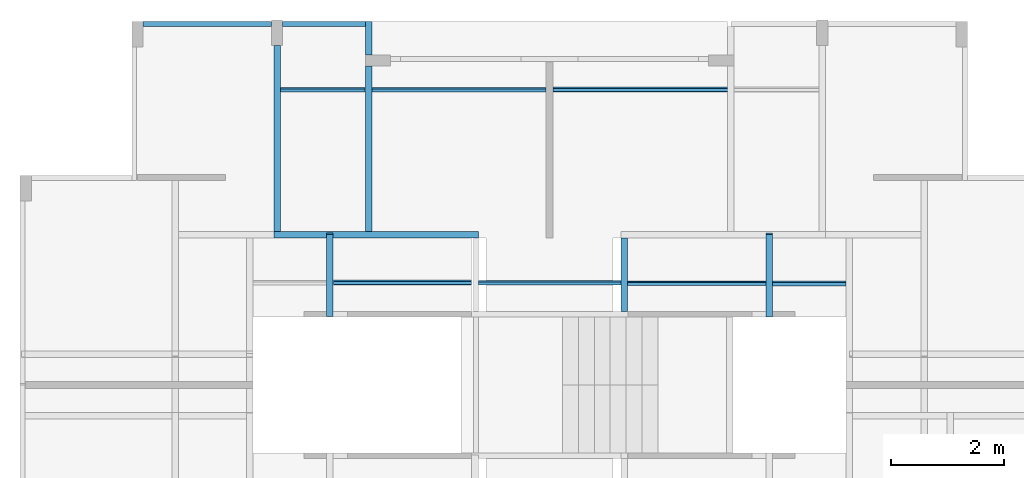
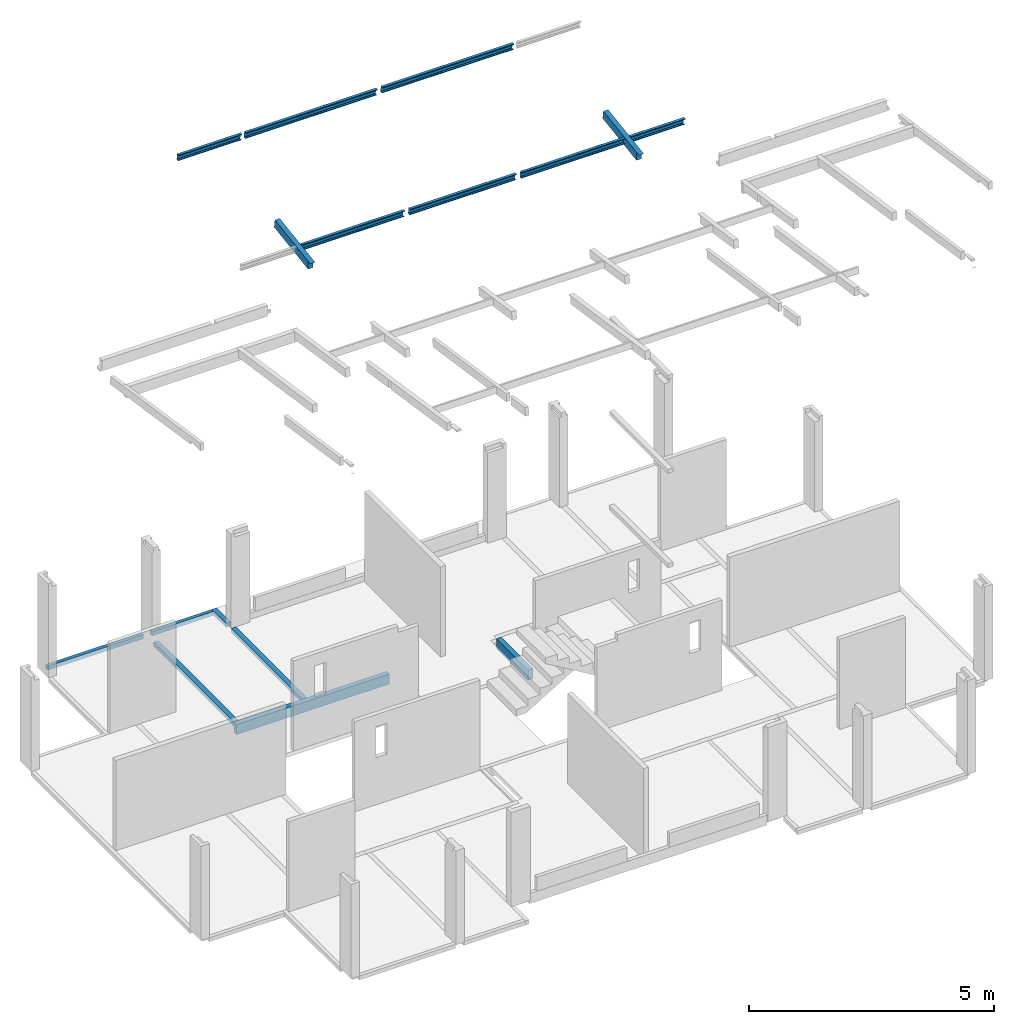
# One storey, part 4 of 9: 14 beams.
"""IFC4 building model written with IfcOpenShell, lengths in metres."""

from ifc_helpers import new_model, entity, si_unit, converted_unit, derived_unit, direction, frame, origin, place, context, subcontext, project, spatial, line, arc, indexed_curve, outline, extrude, source, transform, mapped, material, type_object, type_shapes, element, save


model = new_model("IFC4")

# Units and contexts
model_context = context("Model", 3, precision=1e-05, world=origin(), true_north=direction((6.123031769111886e-17, 1.0)))
body_context = subcontext(model_context, "Body", "Model", "MODEL_VIEW")
ifc_project = project(units=[si_unit("LENGTHUNIT", "METRE"), si_unit("AREAUNIT", "SQUARE_METRE"), si_unit("VOLUMEUNIT", "CUBIC_METRE"), converted_unit("PLANEANGLEUNIT", "DEGREE", entity("IfcRatioMeasure", 0.017453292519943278), si_unit("PLANEANGLEUNIT", "RADIAN"), dimensions=[0, 0, 0, 0, 0, 0, 0]), si_unit("MASSUNIT", "GRAM", prefix="KILO"), derived_unit("MASSDENSITYUNIT", [(si_unit("MASSUNIT", "GRAM", prefix="KILO"), 1), (si_unit("LENGTHUNIT", "METRE"), -3)]), derived_unit("IONCONCENTRATIONUNIT", [(si_unit("MASSUNIT", "GRAM", prefix="KILO"), 1), (si_unit("LENGTHUNIT", "METRE"), -3)]), derived_unit("MOMENTOFINERTIAUNIT", [(si_unit("LENGTHUNIT", "METRE"), 4)]), si_unit("TIMEUNIT", "SECOND"), si_unit("FREQUENCYUNIT", "HERTZ"), si_unit("THERMODYNAMICTEMPERATUREUNIT", "DEGREE_CELSIUS"), derived_unit("THERMALTRANSMITTANCEUNIT", [(si_unit("MASSUNIT", "GRAM", prefix="KILO"), 1), (si_unit("THERMODYNAMICTEMPERATUREUNIT", "KELVIN"), -1), (si_unit("TIMEUNIT", "SECOND"), -3)]), derived_unit("THERMALCONDUCTANCEUNIT", [(si_unit("MASSUNIT", "GRAM", prefix="KILO"), 1), (si_unit("THERMODYNAMICTEMPERATUREUNIT", "KELVIN"), -1), (si_unit("TIMEUNIT", "SECOND"), -3), (si_unit("LENGTHUNIT", "METRE"), 1)]), derived_unit("VOLUMETRICFLOWRATEUNIT", [(si_unit("LENGTHUNIT", "METRE"), 3), (si_unit("TIMEUNIT", "SECOND"), -1)]), derived_unit("MASSFLOWRATEUNIT", [(si_unit("MASSUNIT", "GRAM", prefix="KILO"), 1), (si_unit("TIMEUNIT", "SECOND"), -1)]), derived_unit("ROTATIONALFREQUENCYUNIT", [(si_unit("TIMEUNIT", "SECOND"), -1)]), si_unit("ELECTRICCURRENTUNIT", "AMPERE"), si_unit("ELECTRICVOLTAGEUNIT", "VOLT"), si_unit("POWERUNIT", "WATT"), si_unit("FORCEUNIT", "NEWTON", prefix="KILO"), si_unit("ILLUMINANCEUNIT", "LUX"), si_unit("LUMINOUSFLUXUNIT", "LUMEN"), si_unit("LUMINOUSINTENSITYUNIT", "CANDELA"), derived_unit("USERDEFINED", [(si_unit("MASSUNIT", "GRAM", prefix="KILO"), -1), (si_unit("LENGTHUNIT", "METRE"), -2), (si_unit("TIMEUNIT", "SECOND"), 3), (si_unit("LUMINOUSFLUXUNIT", "LUMEN"), 1)]), derived_unit("USERDEFINED", [(si_unit("MASSUNIT", "GRAM", prefix="KILO"), 1), (si_unit("TIMEUNIT", "SECOND"), -3), (si_unit("LENGTHUNIT", "METRE"), 3), (si_unit("ELECTRICCURRENTUNIT", "AMPERE"), -2)]), derived_unit("SOUNDPOWERUNIT", [(si_unit("MASSUNIT", "GRAM", prefix="KILO"), 1), (si_unit("TIMEUNIT", "SECOND"), -3), (si_unit("LENGTHUNIT", "METRE"), 2)]), derived_unit("SOUNDPRESSUREUNIT", [(si_unit("MASSUNIT", "GRAM", prefix="KILO"), 1), (si_unit("LENGTHUNIT", "METRE"), -1), (si_unit("TIMEUNIT", "SECOND"), -2)]), derived_unit("LINEARVELOCITYUNIT", [(si_unit("LENGTHUNIT", "METRE"), 1), (si_unit("TIMEUNIT", "SECOND"), -1)]), si_unit("PRESSUREUNIT", "PASCAL"), derived_unit("USERDEFINED", [(si_unit("MASSUNIT", "GRAM", prefix="KILO"), 1), (si_unit("LENGTHUNIT", "METRE"), -2), (si_unit("TIMEUNIT", "SECOND"), -2)]), derived_unit("LINEARFORCEUNIT", [(si_unit("MASSUNIT", "GRAM", prefix="KILO"), 1), (si_unit("TIMEUNIT", "SECOND"), -2)]), derived_unit("PLANARFORCEUNIT", [(si_unit("MASSUNIT", "GRAM", prefix="KILO"), 1), (si_unit("LENGTHUNIT", "METRE"), -1), (si_unit("TIMEUNIT", "SECOND"), -2)]), derived_unit("SPECIFICHEATCAPACITYUNIT", [(si_unit("THERMODYNAMICTEMPERATUREUNIT", "KELVIN"), -1), (si_unit("LENGTHUNIT", "METRE"), 2), (si_unit("TIMEUNIT", "SECOND"), -2)]), derived_unit("HEATINGVALUEUNIT", [(si_unit("LENGTHUNIT", "METRE"), 2), (si_unit("TIMEUNIT", "SECOND"), -2)]), derived_unit("VAPORPERMEABILITYUNIT", [(si_unit("LENGTHUNIT", "METRE"), -1), (si_unit("TIMEUNIT", "SECOND"), 1)]), derived_unit("DYNAMICVISCOSITYUNIT", [(si_unit("MASSUNIT", "GRAM", prefix="KILO"), 1), (si_unit("TIMEUNIT", "SECOND"), -1), (si_unit("LENGTHUNIT", "METRE"), -1)]), derived_unit("THERMALEXPANSIONCOEFFICIENTUNIT", [(si_unit("THERMODYNAMICTEMPERATUREUNIT", "KELVIN"), -1)]), derived_unit("MODULUSOFELASTICITYUNIT", [(si_unit("MASSUNIT", "GRAM", prefix="KILO"), 1), (si_unit("LENGTHUNIT", "METRE"), -1), (si_unit("TIMEUNIT", "SECOND"), -2)]), derived_unit("ISOTHERMALMOISTURECAPACITYUNIT", [(si_unit("LENGTHUNIT", "METRE"), 3), (si_unit("MASSUNIT", "GRAM", prefix="KILO"), -1)]), derived_unit("MOISTUREDIFFUSIVITYUNIT", [(si_unit("TIMEUNIT", "SECOND"), -1), (si_unit("LENGTHUNIT", "METRE"), 2)])], contexts=[model_context])

# Site, building, storey
site_placement = place(None, origin())
site = spatial("IfcSite", under=ifc_project, at=site_placement, Name="Default", CompositionType="ELEMENT")
building_placement = place(site_placement, origin())
building = spatial("IfcBuilding", under=site, at=building_placement, Name="Las nubes", CompositionType="ELEMENT")
storey_placement = place(building_placement, frame((0.0, 0.0, 2.3500000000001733)))
storey = spatial("IfcBuildingStorey", under=building, at=storey_placement, Name="PISO 2", CompositionType="ELEMENT", Elevation=2.3500000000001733)

# Beams
ifc_material_1 = material(Name="Concrete, Cast In Situ", Category="Materials")
beam_type_1 = type_object("IfcBeamType", Name="M_Concrete-Rectangular Beam:(0.115x0.25)", PredefinedType="BEAM", material=ifc_material_1)
shared_shape_1 = source(origin(), body_context, "Body", "SweptSolid", [
    extrude(outline(indexed_curve([(-0.12500000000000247, -0.05749999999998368), (0.12499999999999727, -0.0575000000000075), (0.12500000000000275, 0.05749999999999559), (-0.124999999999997, 0.0575000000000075), (-0.12500000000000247, -0.05749999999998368)], self_intersect=False)), frame((8.062500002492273, -3.7674999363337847, 2.2250000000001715), z_axis=(-1.0, 0.0, 0.0), x_axis=(0.0, 0.0, -1.0)), (0.0, 0.0, 1.0), 3.610000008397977),
])
type_shapes(beam_type_1, [shared_shape_1])
beam_1_placement = place(storey_placement, frame((0.0, 0.0, -2.3500000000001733)))
element("IfcBeam", 1, at=beam_1_placement, inside=storey, type_object=beam_type_1, material=ifc_material_1, Name="M_Concrete-Rectangular Beam:(0.115x0.25)", ObjectType="M_Concrete-Rectangular Beam:(0.115x0.25)", PredefinedType="BEAM", context=body_context, shape_type="MappedRepresentation", body=[
    mapped(shared_shape_1, transform((0.0, 0.0, 0.0), scale=1.0)),
])
beam_type_2 = type_object("IfcBeamType", Name="M_Concrete-Rectangular Beam:(0.115x0.25)", PredefinedType="BEAM", material=ifc_material_1)
shared_shape_2 = source(origin(), body_context, "Body", "SweptSolid", [
    extrude(outline(indexed_curve([(-0.05750000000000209, -0.125), (0.05750000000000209, -0.125), (0.05750000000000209, 0.12499999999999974), (-0.05750000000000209, 0.12499999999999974), (-0.05750000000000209, -0.125)], self_intersect=False)), frame((10.639999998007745, -5.125000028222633, 2.2250000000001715), z_axis=(0.0, 1.0, 0.0), x_axis=(-1.0, 0.0, 0.0)), (0.0, 0.0, 1.0), 1.3000000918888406),
])
type_shapes(beam_type_2, [shared_shape_2])
beam_2_placement = place(storey_placement, frame((0.0, 0.0, -2.3500000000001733)))
element("IfcBeam", 2, at=beam_2_placement, inside=storey, type_object=beam_type_2, material=ifc_material_1, Name="M_Concrete-Rectangular Beam:(0.115x0.25)", ObjectType="M_Concrete-Rectangular Beam:(0.115x0.25)", PredefinedType="BEAM", context=body_context, shape_type="MappedRepresentation", body=[
    mapped(shared_shape_2, transform((0.0, 0.0, 0.0), scale=1.0)),
])
beam_type_3 = type_object("IfcBeamType", Name="M_Concrete-Rectangular Beam:(0.115x0.10)", PredefinedType="BEAM", material=ifc_material_1)
shared_shape_3 = source(origin(), body_context, "Body", "SweptSolid", [
    extrude(outline(indexed_curve([(-0.05750000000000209, -0.05), (0.05750000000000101, -0.05), (0.05750000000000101, 0.05), (-0.05750000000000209, 0.05), (-0.05750000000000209, -0.05)], self_intersect=False)), frame((4.5099999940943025, -0.4300000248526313, 2.3000000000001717), z_axis=(0.0, -1.0, 0.0), x_axis=(-1.0, 0.0, 0.0)), (0.0, 0.0, 1.0), 3.2799999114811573),
])
type_shapes(beam_type_3, [shared_shape_3])
beam_3_placement = place(storey_placement, frame((0.0, 0.0, -2.3500000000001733)))
element("IfcBeam", 3, at=beam_3_placement, inside=storey, type_object=beam_type_3, material=ifc_material_1, Name="M_Concrete-Rectangular Beam:(0.115x0.10)", ObjectType="M_Concrete-Rectangular Beam:(0.115x0.10)", PredefinedType="BEAM", context=body_context, shape_type="MappedRepresentation", body=[
    mapped(shared_shape_3, transform((0.0, 0.0, 0.0), scale=1.0)),
])
beam_type_4 = type_object("IfcBeamType", Name="M_Concrete-Rectangular Beam:(0.085x0.10)", PredefinedType="BEAM", material=ifc_material_1)
shared_shape_4 = source(origin(), body_context, "Body", "SweptSolid", [
    extrude(outline(indexed_curve([(-0.050000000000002, -0.04249999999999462), (0.049999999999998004, -0.04250000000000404), (0.050000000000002, 0.04249999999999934), (-0.049999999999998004, 0.04250000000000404), (-0.050000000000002, -0.04249999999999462)], self_intersect=False)), frame((4.609999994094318, -0.05247950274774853, 2.3000000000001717), z_axis=(1.0, 0.0, 0.0), x_axis=(0.0, 0.0, -1.0)), (0.0, 0.0, 1.0), 1.4574999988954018),
    extrude(outline(indexed_curve([(-0.05000000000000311, -0.04249999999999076), (0.0499999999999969, -0.042500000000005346), (0.05000000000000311, 0.04249999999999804), (-0.0499999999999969, 0.042500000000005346), (-0.05000000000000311, -0.04249999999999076)], self_intersect=False)), frame((2.14749999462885, -0.05247950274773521, 2.3000000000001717), z_axis=(1.0, 0.0, 0.0), x_axis=(0.0, 0.0, -1.0)), (0.0, 0.0, 1.0), 2.2624999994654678),
])
type_shapes(beam_type_4, [shared_shape_4])
beam_4_placement = place(storey_placement, frame((0.0, 0.0, -2.3500000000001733)))
element("IfcBeam", 4, at=beam_4_placement, inside=storey, type_object=beam_type_4, material=ifc_material_1, Name="M_Concrete-Rectangular Beam:(0.085x0.10)", ObjectType="M_Concrete-Rectangular Beam:(0.085x0.10)", PredefinedType="BEAM", context=body_context, shape_type="MappedRepresentation", body=[
    mapped(shared_shape_4, transform((0.0, 0.0, 0.0), scale=1.0)),
])
beam_type_5 = type_object("IfcBeamType", Name="M_Concrete-Rectangular Beam:(0.115x0.10)", PredefinedType="BEAM", material=ifc_material_1)
shared_shape_5 = source(origin(), body_context, "Body", "SweptSolid", [
    extrude(outline(indexed_curve([(-0.05750000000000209, -0.05), (0.05750000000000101, -0.05), (0.05750000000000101, 0.05), (-0.05750000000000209, 0.05), (-0.05750000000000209, -0.05)], self_intersect=False)), frame((6.12499999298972, -0.7950000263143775, 2.3000000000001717), z_axis=(0.0, -1.0, 0.0), x_axis=(-1.0, 0.0, 0.0)), (0.0, 0.0, 1.0), 2.9149999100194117),
    extrude(outline(indexed_curve([(-0.05750000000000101, -0.05), (0.05750000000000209, -0.05), (0.05750000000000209, 0.05), (-0.05750000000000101, 0.05), (-0.05750000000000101, -0.05)], self_intersect=False)), frame((6.124999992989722, -0.009979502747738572, 2.3000000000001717), z_axis=(0.0, -1.0, 0.0), x_axis=(-1.0, 0.0, 0.0)), (0.0, 0.0, 1.0), 0.5850205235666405),
])
type_shapes(beam_type_5, [shared_shape_5])
beam_5_placement = place(storey_placement, frame((0.0, 0.0, -2.3500000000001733)))
element("IfcBeam", 5, at=beam_5_placement, inside=storey, type_object=beam_type_5, material=ifc_material_1, Name="M_Concrete-Rectangular Beam:(0.115x0.10)", ObjectType="M_Concrete-Rectangular Beam:(0.115x0.10)", PredefinedType="BEAM", context=body_context, shape_type="MappedRepresentation", body=[
    mapped(shared_shape_5, transform((0.0, 0.0, 0.0), scale=1.0)),
])
beam_type_6 = type_object("IfcBeamType", Name="M_Concrete-Rectangular Beam:(0.115x0.20)", PredefinedType="BEAM", material=ifc_material_1)
shared_shape_6 = source(origin(), body_context, "Body", "SweptSolid", [
    extrude(outline(indexed_curve([(-0.9527140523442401, -0.06925767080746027), (0.5165752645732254, -0.06925767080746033), (0.5166783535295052, -0.06857041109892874), (0.4222016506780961, -0.054398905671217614), (0.4499728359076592, 0.1307423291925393), (-0.9527140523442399, 0.13074232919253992), (-0.9527140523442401, -0.06925767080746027)], self_intersect=False)), frame((13.142500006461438, -4.699399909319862, 14.374932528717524), z_axis=(1.0, 0.0, 0.0), x_axis=(0.0, -0.988936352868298, -0.14834045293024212)), (0.0, 0.0, 1.0), 0.11500000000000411),
])
type_shapes(beam_type_6, [shared_shape_6])
beam_6_placement = place(storey_placement, frame((0.0, 0.0, -2.3500000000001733)))
element("IfcBeam", 6, at=beam_6_placement, inside=storey, type_object=beam_type_6, material=ifc_material_1, Name="M_Concrete-Rectangular Beam:(0.115x0.20)", ObjectType="M_Concrete-Rectangular Beam:(0.115x0.20)", PredefinedType="BEAM", context=body_context, shape_type="MappedRepresentation", body=[
    mapped(shared_shape_6, transform((0.0, 0.0, 0.0), scale=1.0)),
])
beam_type_7 = type_object("IfcBeamType", Name="M_Concrete-Rectangular Beam:(0.115x0.20)", PredefinedType="BEAM", material=ifc_material_1)
shared_shape_7 = source(origin(), body_context, "Body", "SweptSolid", [
    extrude(outline(indexed_curve([(-0.9520587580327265, -0.0693062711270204), (0.5152428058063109, -0.06930627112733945), (0.5153896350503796, -0.0683274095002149), (0.4228569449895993, -0.054447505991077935), (0.4506281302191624, 0.13069372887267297), (-0.9520587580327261, 0.1306937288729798), (-0.9520587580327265, -0.0693062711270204)], self_intersect=False)), frame((5.387499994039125, -4.698744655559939, 14.374981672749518), z_axis=(1.0, 0.0, 0.0), x_axis=(0.0, -0.988936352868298, -0.14834045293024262)), (0.0, 0.0, 1.0), 0.115000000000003),
])
type_shapes(beam_type_7, [shared_shape_7])
beam_7_placement = place(storey_placement, frame((0.0, 0.0, -2.3500000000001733)))
element("IfcBeam", 7, at=beam_7_placement, inside=storey, type_object=beam_type_7, material=ifc_material_1, Name="M_Concrete-Rectangular Beam:(0.115x0.20)", ObjectType="M_Concrete-Rectangular Beam:(0.115x0.20)", PredefinedType="BEAM", context=body_context, shape_type="MappedRepresentation", body=[
    mapped(shared_shape_7, transform((0.0, 0.0, 0.0), scale=1.0)),
])
ifc_material_2 = material(Name="Steel - 300+", Category="Materials")
beam_type_8 = type_object("IfcBeamType", Name="AUS-C Purlin:CR-1", PredefinedType="BEAM", material=ifc_material_2)
shared_shape_8 = source(origin(), body_context, "Body", "SweptSolid", [
    extrude(outline(indexed_curve([(-0.07614999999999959, -0.023850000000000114), (-0.05965000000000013, -0.023850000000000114), (-0.05965000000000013, -0.02185000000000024), (-0.07615000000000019, -0.02185000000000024), (-0.07721066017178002, -0.021410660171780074), (-0.0776500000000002, -0.020350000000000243), (-0.07765000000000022, 0.03265000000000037), (-0.07721066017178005, 0.033710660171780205), (-0.0761500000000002, 0.03415000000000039), (0.07334999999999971, 0.03415000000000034), (0.07688553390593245, 0.03268553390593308), (0.07834999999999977, 0.029150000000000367), (0.07834999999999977, -0.02035000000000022), (0.07791066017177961, -0.021410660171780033), (0.07684999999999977, -0.02185000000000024), (0.06034999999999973, -0.02185000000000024), (0.06034999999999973, -0.023850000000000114), (0.07685000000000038, -0.023850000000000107), (0.0793248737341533, -0.022824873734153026), (0.0803500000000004, -0.020350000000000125), (0.0803500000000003, 0.029149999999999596), (0.078299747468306, 0.034099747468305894), (0.0733499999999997, 0.03615000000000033), (-0.07614999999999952, 0.036150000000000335), (-0.07862487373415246, 0.03512487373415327), (-0.07964999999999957, 0.032650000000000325), (-0.07964999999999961, -0.020350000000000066), (-0.07862487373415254, -0.02282487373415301)], segments=[line(1, 2, 3, 4), arc(4, 5, 6), line(6, 7), arc(7, 8, 9), line(9, 10), arc(10, 11, 12), line(12, 13), arc(13, 14, 15), line(15, 16, 17, 18), arc(18, 19, 20), line(20, 21), arc(21, 22, 23), line(23, 24), arc(24, 25, 26), line(26, 27), arc(27, 28, 1)], self_intersect=False)), frame((-1.2217510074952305, -0.03415000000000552, 0.00034999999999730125), z_axis=(1.0, 0.0, 0.0), x_axis=(0.0, 0.0, -1.0)), (0.0, 0.0, 1.0), 2.443164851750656),
])
type_shapes(beam_type_8, [shared_shape_8])
beam_8_placement = place(storey_placement, frame((6.724999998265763, -4.5854425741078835, 12.031163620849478), z_axis=(0.0, -0.14834045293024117, 0.9889363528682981), x_axis=(1.0, 0.0, 0.0)))
element("IfcBeam", 8, at=beam_8_placement, inside=storey, type_object=beam_type_8, material=ifc_material_2, Name="AUS-C Purlin:CR-1", ObjectType="AUS-C Purlin:CR-1", PredefinedType="BEAM", context=body_context, shape_type="MappedRepresentation", body=[
    mapped(shared_shape_8, transform((0.0, 0.0, 0.0), scale=1.0)),
])
beam_type_9 = type_object("IfcBeamType", Name="AUS-C Purlin:CR-1", PredefinedType="BEAM", material=ifc_material_2)
shared_shape_9 = source(origin(), body_context, "Body", "SweptSolid", [
    extrude(outline(indexed_curve([(-0.07614999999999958, -0.023850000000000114), (-0.05965000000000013, -0.023850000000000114), (-0.05965000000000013, -0.02185000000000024), (-0.07615000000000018, -0.02185000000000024), (-0.07721066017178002, -0.021410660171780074), (-0.0776500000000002, -0.020350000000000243), (-0.07765000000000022, 0.03265000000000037), (-0.07721066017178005, 0.033710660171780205), (-0.07615000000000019, 0.03415000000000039), (0.07334999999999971, 0.03415000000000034), (0.07688553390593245, 0.03268553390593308), (0.07834999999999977, 0.029150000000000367), (0.07834999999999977, -0.02035000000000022), (0.07791066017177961, -0.021410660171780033), (0.07684999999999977, -0.02185000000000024), (0.06034999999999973, -0.02185000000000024), (0.06034999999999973, -0.023850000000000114), (0.07685000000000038, -0.023850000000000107), (0.0793248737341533, -0.022824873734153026), (0.0803500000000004, -0.020350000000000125), (0.0803500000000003, 0.029149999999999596), (0.078299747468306, 0.034099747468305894), (0.0733499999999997, 0.03615000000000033), (-0.07614999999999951, 0.036150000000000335), (-0.07862487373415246, 0.03512487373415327), (-0.07964999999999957, 0.032650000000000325), (-0.07964999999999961, -0.020350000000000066), (-0.07862487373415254, -0.02282487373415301)], segments=[line(1, 2, 3, 4), arc(4, 5, 6), line(6, 7), arc(7, 8, 9), line(9, 10), arc(10, 11, 12), line(12, 13), arc(13, 14, 15), line(15, 16, 17, 18), arc(18, 19, 20), line(20, 21), arc(21, 22, 23), line(23, 24), arc(24, 25, 26), line(26, 27), arc(27, 28, 1)], self_intersect=False)), frame((-1.2567237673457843, -0.03415000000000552, 0.0003499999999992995), z_axis=(1.0, 0.0, 0.0), x_axis=(0.0, 0.0, -1.0)), (0.0, 0.0, 1.0), 2.5146642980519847),
])
type_shapes(beam_type_9, [shared_shape_9])
beam_9_placement = place(storey_placement, frame((9.322500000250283, -4.5920440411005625, 12.030173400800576), z_axis=(0.0, -0.14834045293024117, 0.9889363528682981), x_axis=(1.0, 0.0, 0.0)))
element("IfcBeam", 9, at=beam_9_placement, inside=storey, type_object=beam_type_9, material=ifc_material_2, Name="AUS-C Purlin:CR-1", ObjectType="AUS-C Purlin:CR-1", PredefinedType="BEAM", context=body_context, shape_type="MappedRepresentation", body=[
    mapped(shared_shape_9, transform((0.0, 0.0, 0.0), scale=1.0)),
])
beam_type_10 = type_object("IfcBeamType", Name="AUS-C Purlin:CR-1", PredefinedType="BEAM", material=ifc_material_2)
shared_shape_10 = source(origin(), body_context, "Body", "SweptSolid", [
    extrude(outline(indexed_curve([(-0.07614999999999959, -0.023850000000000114), (-0.05965000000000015, -0.023850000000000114), (-0.05965000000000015, -0.02185000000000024), (-0.07615000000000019, -0.02185000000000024), (-0.07721066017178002, -0.021410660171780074), (-0.0776500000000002, -0.020350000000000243), (-0.07765000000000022, 0.03265000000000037), (-0.07721066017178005, 0.033710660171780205), (-0.0761500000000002, 0.03415000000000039), (0.0733499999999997, 0.03415000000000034), (0.07688553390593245, 0.03268553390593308), (0.07834999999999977, 0.029150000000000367), (0.07834999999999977, -0.02035000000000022), (0.07791066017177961, -0.021410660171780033), (0.07684999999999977, -0.02185000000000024), (0.06034999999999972, -0.02185000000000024), (0.06034999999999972, -0.023850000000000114), (0.07685000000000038, -0.023850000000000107), (0.0793248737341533, -0.022824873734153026), (0.0803500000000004, -0.020350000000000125), (0.0803500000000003, 0.029149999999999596), (0.078299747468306, 0.034099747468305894), (0.07334999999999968, 0.03615000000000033), (-0.07614999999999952, 0.036150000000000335), (-0.07862487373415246, 0.03512487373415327), (-0.07964999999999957, 0.032650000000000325), (-0.07964999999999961, -0.020350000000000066), (-0.07862487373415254, -0.02282487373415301)], segments=[line(1, 2, 3, 4), arc(4, 5, 6), line(6, 7), arc(7, 8, 9), line(9, 10), arc(10, 11, 12), line(12, 13), arc(13, 14, 15), line(15, 16, 17, 18), arc(18, 19, 20), line(20, 21), arc(21, 22, 23), line(23, 24), arc(24, 25, 26), line(26, 27), arc(27, 28, 1)], self_intersect=False)), frame((-1.2217510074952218, -0.03415000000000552, 0.00034999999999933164), z_axis=(1.0, 0.0, 0.0), x_axis=(0.0, 0.0, -1.0)), (0.0, 0.0, 1.0), 2.443247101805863),
])
type_shapes(beam_type_10, [shared_shape_10])
beam_10_placement = place(storey_placement, frame((11.920000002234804, -4.598500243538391, 12.029204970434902), z_axis=(0.0, -0.14834045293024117, 0.9889363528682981), x_axis=(1.0, 0.0, 0.0)))
element("IfcBeam", 10, at=beam_10_placement, inside=storey, type_object=beam_type_10, material=ifc_material_2, Name="AUS-C Purlin:CR-1", ObjectType="AUS-C Purlin:CR-1", PredefinedType="BEAM", context=body_context, shape_type="MappedRepresentation", body=[
    mapped(shared_shape_10, transform((0.0, 0.0, 0.0), scale=1.0)),
])
beam_type_11 = type_object("IfcBeamType", Name="AUS-C Purlin:CR-1", PredefinedType="BEAM", material=ifc_material_2)
shared_shape_11 = source(origin(), body_context, "Body", "SweptSolid", [
    extrude(outline(indexed_curve([(-0.07614999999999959, -0.023850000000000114), (-0.05965000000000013, -0.023850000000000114), (-0.05965000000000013, -0.02185000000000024), (-0.07615000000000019, -0.02185000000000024), (-0.07721066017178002, -0.021410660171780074), (-0.0776500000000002, -0.020350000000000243), (-0.07765000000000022, 0.03265000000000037), (-0.07721066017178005, 0.033710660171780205), (-0.0761500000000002, 0.03415000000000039), (0.07334999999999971, 0.03415000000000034), (0.07688553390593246, 0.03268553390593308), (0.07834999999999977, 0.029150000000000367), (0.07834999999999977, -0.02035000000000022), (0.07791066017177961, -0.021410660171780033), (0.07684999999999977, -0.02185000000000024), (0.060349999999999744, -0.02185000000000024), (0.060349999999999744, -0.023850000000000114), (0.07685000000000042, -0.023850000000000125), (0.07932487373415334, -0.022824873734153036), (0.0803500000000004, -0.020350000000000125), (0.08035000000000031, 0.029149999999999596), (0.07829974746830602, 0.034099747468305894), (0.0733499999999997, 0.03615000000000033), (-0.07614999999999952, 0.036150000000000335), (-0.07862487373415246, 0.03512487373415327), (-0.07964999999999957, 0.032650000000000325), (-0.07964999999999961, -0.020350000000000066), (-0.07862487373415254, -0.02282487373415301)], segments=[line(1, 2, 3, 4), arc(4, 5, 6), line(6, 7), arc(7, 8, 9), line(9, 10), arc(10, 11, 12), line(12, 13), arc(13, 14, 15), line(15, 16, 17, 18), arc(18, 19, 20), line(20, 21), arc(21, 22, 23), line(23, 24), arc(24, 25, 26), line(26, 27), arc(27, 28, 1)], self_intersect=False)), frame((-0.649251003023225, -0.03415000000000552, 0.0003499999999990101), z_axis=(1.0, 0.0, 0.0), x_axis=(0.0, 0.0, -1.0)), (0.0, 0.0, 1.0), 1.2972923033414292),
])
type_shapes(beam_type_11, [shared_shape_11])
beam_11_placement = place(storey_placement, frame((13.907500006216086, -4.604814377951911, 12.028257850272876), z_axis=(0.0, -0.14834045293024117, 0.9889363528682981), x_axis=(1.0, 0.0, 0.0)))
element("IfcBeam", 11, at=beam_11_placement, inside=storey, type_object=beam_type_11, material=ifc_material_2, Name="AUS-C Purlin:CR-1", ObjectType="AUS-C Purlin:CR-1", PredefinedType="BEAM", context=body_context, shape_type="MappedRepresentation", body=[
    mapped(shared_shape_11, transform((0.0, 0.0, 0.0), scale=1.0)),
])
beam_type_12 = type_object("IfcBeamType", Name="AUS-C Purlin:CR-1", PredefinedType="BEAM", material=ifc_material_2)
shared_shape_12 = source(origin(), body_context, "Body", "SweptSolid", [
    extrude(outline(indexed_curve([(-0.07614999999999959, -0.023850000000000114), (-0.05965000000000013, -0.023850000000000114), (-0.05965000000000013, -0.02185000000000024), (-0.07615000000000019, -0.02185000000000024), (-0.07721066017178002, -0.021410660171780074), (-0.0776500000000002, -0.020350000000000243), (-0.07765000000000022, 0.03265000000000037), (-0.07721066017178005, 0.033710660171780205), (-0.0761500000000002, 0.03415000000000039), (0.07334999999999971, 0.03415000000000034), (0.07688553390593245, 0.03268553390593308), (0.07834999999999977, 0.029150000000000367), (0.07834999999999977, -0.02035000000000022), (0.07791066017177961, -0.021410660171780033), (0.07684999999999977, -0.02185000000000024), (0.06034999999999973, -0.02185000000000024), (0.06034999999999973, -0.023850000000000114), (0.07685000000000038, -0.023850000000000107), (0.0793248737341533, -0.022824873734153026), (0.0803500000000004, -0.020350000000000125), (0.0803500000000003, 0.029149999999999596), (0.078299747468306, 0.034099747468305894), (0.0733499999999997, 0.03615000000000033), (-0.07614999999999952, 0.036150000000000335), (-0.07862487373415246, 0.03512487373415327), (-0.07964999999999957, 0.032650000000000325), (-0.07964999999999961, -0.020350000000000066), (-0.07862487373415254, -0.02282487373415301)], segments=[line(1, 2, 3, 4), arc(4, 5, 6), line(6, 7), arc(7, 8, 9), line(9, 10), arc(10, 11, 12), line(12, 13), arc(13, 14, 15), line(15, 16, 17, 18), arc(18, 19, 20), line(20, 21), arc(21, 22, 23), line(23, 24), arc(24, 25, 26), line(26, 27), arc(27, 28, 1)], self_intersect=False)), frame((-0.7423326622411, -0.03415000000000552, 0.0003499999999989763), z_axis=(1.0, 0.0, 0.0), x_axis=(0.0, 0.0, -1.0)), (0.0, 0.0, 1.0), 1.4979288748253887),
])
type_shapes(beam_type_12, [shared_shape_12])
beam_12_placement = place(storey_placement, frame((5.309999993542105, -1.1854425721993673, 12.541163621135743), z_axis=(0.0, -0.14834045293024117, 0.9889363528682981), x_axis=(1.0, 0.0, 0.0)))
element("IfcBeam", 12, at=beam_12_placement, inside=storey, type_object=beam_type_12, material=ifc_material_2, Name="AUS-C Purlin:CR-1", ObjectType="AUS-C Purlin:CR-1", PredefinedType="BEAM", context=body_context, shape_type="MappedRepresentation", body=[
    mapped(shared_shape_12, transform((0.0, 0.0, 0.0), scale=1.0)),
])
beam_type_13 = type_object("IfcBeamType", Name="AUS-C Purlin:CR-1", PredefinedType="BEAM", material=ifc_material_2)
shared_shape_13 = source(origin(), body_context, "Body", "SweptSolid", [
    extrude(outline(indexed_curve([(-0.0761499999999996, -0.023850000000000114), (-0.05965000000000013, -0.023850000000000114), (-0.05965000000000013, -0.02185000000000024), (-0.07615000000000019, -0.02185000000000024), (-0.07721066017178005, -0.021410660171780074), (-0.07765000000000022, -0.020350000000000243), (-0.07765000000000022, 0.03265000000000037), (-0.07721066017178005, 0.033710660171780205), (-0.0761500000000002, 0.03415000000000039), (0.07334999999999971, 0.03415000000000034), (0.07688553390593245, 0.03268553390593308), (0.07834999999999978, 0.029150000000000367), (0.07834999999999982, -0.02035000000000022), (0.07791066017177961, -0.02141066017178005), (0.0768499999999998, -0.02185000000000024), (0.06034999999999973, -0.02185000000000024), (0.06034999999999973, -0.023850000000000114), (0.0768500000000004, -0.023850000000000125), (0.07932487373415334, -0.022824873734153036), (0.08035000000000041, -0.020350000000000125), (0.08035000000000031, 0.029149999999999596), (0.078299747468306, 0.034099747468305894), (0.0733499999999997, 0.03615000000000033), (-0.07614999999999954, 0.036150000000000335), (-0.07862487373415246, 0.03512487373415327), (-0.0796499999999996, 0.032650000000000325), (-0.0796499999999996, -0.020350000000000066), (-0.07862487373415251, -0.022824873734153)], segments=[line(1, 2, 3, 4), arc(4, 5, 6), line(6, 7), arc(7, 8, 9), line(9, 10), arc(10, 11, 12), line(12, 13), arc(13, 14, 15), line(15, 16, 17, 18), arc(18, 19, 20), line(20, 21), arc(21, 22, 23), line(23, 24), arc(24, 25, 26), line(26, 27), arc(27, 28, 1)], self_intersect=False)), frame((-1.5460826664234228, -0.03415000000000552, 0.00034999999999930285), z_axis=(1.0, 0.0, 0.0), x_axis=(0.0, 0.0, -1.0)), (0.0, 0.0, 1.0), 3.107680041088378),
])
type_shapes(beam_type_13, [shared_shape_13])
beam_13_placement = place(storey_placement, frame((10.928750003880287, -1.1788411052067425, 12.54215384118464), z_axis=(0.0, -0.14834045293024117, 0.9889363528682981), x_axis=(1.0, 0.0, 0.0)))
element("IfcBeam", 13, at=beam_13_placement, inside=storey, type_object=beam_type_13, material=ifc_material_2, Name="AUS-C Purlin:CR-1", ObjectType="AUS-C Purlin:CR-1", PredefinedType="BEAM", context=body_context, shape_type="MappedRepresentation", body=[
    mapped(shared_shape_13, transform((0.0, 0.0, 0.0), scale=1.0)),
])
beam_type_14 = type_object("IfcBeamType", Name="AUS-C Purlin:CR-1", PredefinedType="BEAM", material=ifc_material_2)
shared_shape_14 = source(origin(), body_context, "Body", "SweptSolid", [
    extrude(outline(indexed_curve([(-0.07614999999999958, -0.023850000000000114), (-0.05965000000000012, -0.023850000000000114), (-0.05965000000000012, -0.02185000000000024), (-0.07615000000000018, -0.02185000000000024), (-0.07721066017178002, -0.021410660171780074), (-0.0776500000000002, -0.020350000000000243), (-0.07765000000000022, 0.03265000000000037), (-0.07721066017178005, 0.033710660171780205), (-0.07615000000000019, 0.03415000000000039), (0.07334999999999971, 0.03415000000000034), (0.07688553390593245, 0.03268553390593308), (0.07834999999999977, 0.029150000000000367), (0.07834999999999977, -0.02035000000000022), (0.07791066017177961, -0.021410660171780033), (0.07684999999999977, -0.02185000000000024), (0.060349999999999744, -0.02185000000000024), (0.060349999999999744, -0.023850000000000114), (0.07685000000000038, -0.023850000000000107), (0.0793248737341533, -0.022824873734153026), (0.0803500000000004, -0.020350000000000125), (0.0803500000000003, 0.029149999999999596), (0.078299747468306, 0.034099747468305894), (0.0733499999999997, 0.03615000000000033), (-0.07614999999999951, 0.036150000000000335), (-0.07862487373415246, 0.03512487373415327), (-0.07964999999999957, 0.032650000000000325), (-0.07964999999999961, -0.020350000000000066), (-0.07862487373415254, -0.02282487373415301)], segments=[line(1, 2, 3, 4), arc(4, 5, 6), line(6, 7), arc(7, 8, 9), line(9, 10), arc(10, 11, 12), line(12, 13), arc(13, 14, 15), line(15, 16, 17, 18), arc(18, 19, 20), line(20, 21), arc(21, 22, 23), line(23, 24), arc(24, 25, 26), line(26, 27), arc(27, 28, 1)], self_intersect=False)), frame((-1.5625338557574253, -0.03415000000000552, 0.000349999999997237), z_axis=(1.0, 0.0, 0.0), x_axis=(0.0, 0.0, -1.0)), (0.0, 0.0, 1.0), 3.108783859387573),
])
type_shapes(beam_type_14, [shared_shape_14])
beam_14_placement = place(storey_placement, frame((7.716249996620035, -1.1854425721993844, 12.541163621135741), z_axis=(0.0, -0.14834045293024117, 0.9889363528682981), x_axis=(1.0, 0.0, 0.0)))
element("IfcBeam", 14, at=beam_14_placement, inside=storey, type_object=beam_type_14, material=ifc_material_2, Name="AUS-C Purlin:CR-1", ObjectType="AUS-C Purlin:CR-1", PredefinedType="BEAM", context=body_context, shape_type="MappedRepresentation", body=[
    mapped(shared_shape_14, transform((0.0, 0.0, 0.0), scale=1.0)),
])

save(model, "model.ifc")
